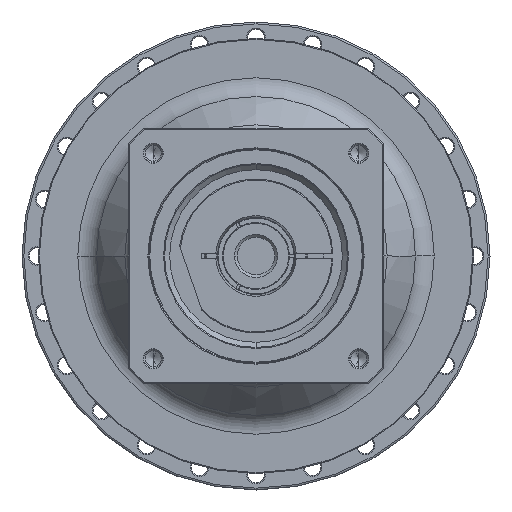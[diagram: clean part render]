
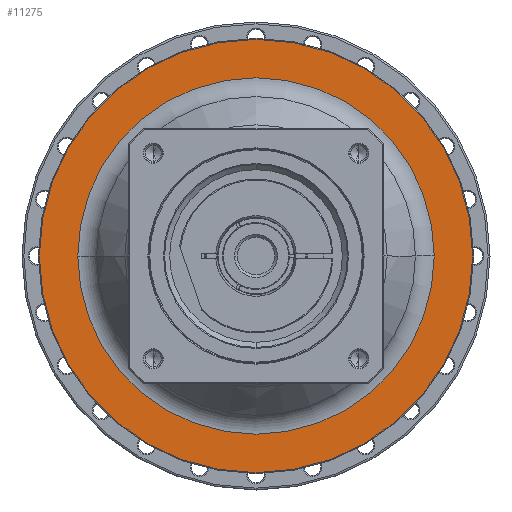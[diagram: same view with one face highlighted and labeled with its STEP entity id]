
A CAD part, left-side view. The second image highlights one B-rep face of the part: STEP entity #11275.
In plain terms, the highlighted planar face has unit normal (-1, 0, 0) as drawn and (1, 0, 0) by its records, which use the part's own axes.
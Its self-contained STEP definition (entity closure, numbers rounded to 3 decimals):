
#10706=CARTESIAN_POINT('',(-33.5,0.,0.));
#10707=DIRECTION('',(1.,0.,0.));
#10708=DIRECTION('',(0.,1.,0.));
#10709=AXIS2_PLACEMENT_3D('',#10706,#10707,#10708);
#10711=CARTESIAN_POINT('',(-33.5,0.,0.));
#10712=DIRECTION('',(1.,0.,0.));
#10713=DIRECTION('',(0.,-1.,0.));
#10714=AXIS2_PLACEMENT_3D('',#10711,#10712,#10713);
#10716=CARTESIAN_POINT('',(-33.5,0.,0.));
#10717=DIRECTION('',(-1.,0.,0.));
#10718=DIRECTION('',(0.,-1.,0.));
#10719=AXIS2_PLACEMENT_3D('',#10716,#10717,#10718);
#10721=CARTESIAN_POINT('',(-33.5,0.,0.));
#10722=DIRECTION('',(-1.,0.,0.));
#10723=DIRECTION('',(0.,1.,0.));
#10724=AXIS2_PLACEMENT_3D('',#10721,#10722,#10723);
#10830=CARTESIAN_POINT('',(-33.5,-115.5,0.));
#10831=CARTESIAN_POINT('',(-33.5,115.5,0.));
#10832=VERTEX_POINT('',#10830);
#10833=VERTEX_POINT('',#10831);
#10894=CARTESIAN_POINT('',(-33.5,95.,0.));
#10895=VERTEX_POINT('',#10894);
#10896=CARTESIAN_POINT('',(-33.5,-95.,0.));
#10897=VERTEX_POINT('',#10896);
#11260=CARTESIAN_POINT('',(-33.5,0.,0.));
#11261=DIRECTION('',(1.,0.,0.));
#11262=DIRECTION('',(0.,-1.,0.));
#11263=AXIS2_PLACEMENT_3D('',#11260,#11261,#11262);
#11264=PLANE('',#11263);
#11265=ORIENTED_EDGE('',*,*,#11201,.T.);
#11266=ORIENTED_EDGE('',*,*,#11216,.T.);
#11267=EDGE_LOOP('',(#11265,#11266));
#11268=FACE_OUTER_BOUND('',#11267,.F.);
#11270=ORIENTED_EDGE('',*,*,#11269,.T.);
#11272=ORIENTED_EDGE('',*,*,#11271,.T.);
#11273=EDGE_LOOP('',(#11270,#11272));
#11274=FACE_BOUND('',#11273,.F.);
#11275=ADVANCED_FACE('',(#11268,#11274),#11264,.T.);
#10710=CIRCLE('',#10709,95.);
#10715=CIRCLE('',#10714,95.);
#10720=CIRCLE('',#10719,115.5);
#10725=CIRCLE('',#10724,115.5);
#11201=EDGE_CURVE('',#10832,#10833,#10720,.T.);
#11216=EDGE_CURVE('',#10833,#10832,#10725,.T.);
#11269=EDGE_CURVE('',#10895,#10897,#10710,.T.);
#11271=EDGE_CURVE('',#10897,#10895,#10715,.T.);
